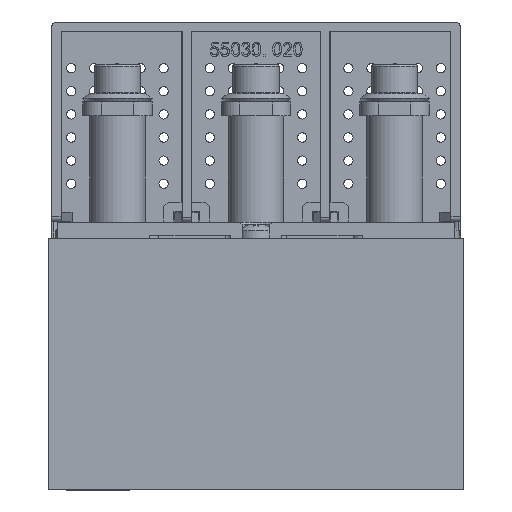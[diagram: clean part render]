
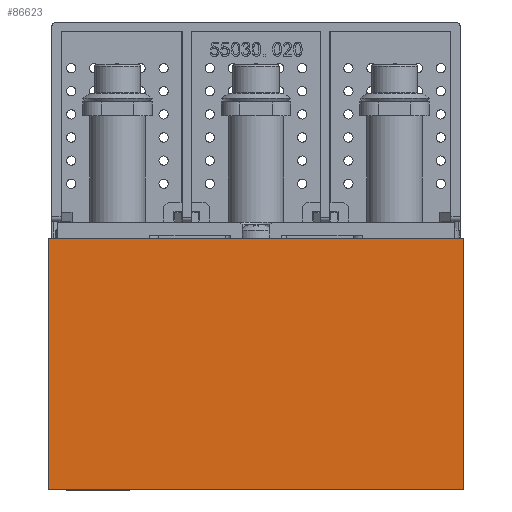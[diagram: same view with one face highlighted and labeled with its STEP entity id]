
A CAD part, left-side view. The second image highlights one B-rep face of the part: STEP entity #86623.
In plain terms, the highlighted planar face has unit normal (-1, 0, 0).
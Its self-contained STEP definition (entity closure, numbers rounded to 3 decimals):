
#1663 = DIRECTION ( 'NONE',  ( 0., 0., 1. ) ) ;
#5992 = CARTESIAN_POINT ( 'NONE',  ( -124.11, -39.537, 165.85 ) ) ;
#7339 = VERTEX_POINT ( 'NONE', #5992 ) ;
#9462 = LINE ( 'NONE', #20643, #47146 ) ;
#13139 = VECTOR ( 'NONE', #78857, 1000. ) ;
#13772 = AXIS2_PLACEMENT_3D ( 'NONE', #49940, #64772, #1663 ) ;
#18116 = DIRECTION ( 'NONE',  ( 0., -1., 0. ) ) ;
#20643 = CARTESIAN_POINT ( 'NONE',  ( -124.11, 50.463, 165.85 ) ) ;
#21402 = VECTOR ( 'NONE', #80673, 1000. ) ;
#22137 = ORIENTED_EDGE ( 'NONE', *, *, #66655, .T. ) ;
#24779 = CARTESIAN_POINT ( 'NONE',  ( -124.11, 50.463, 220.35 ) ) ;
#24963 = CARTESIAN_POINT ( 'NONE',  ( -124.11, 50.463, 165.85 ) ) ;
#25060 = FACE_OUTER_BOUND ( 'NONE', #78325, .T. ) ;
#32980 = CARTESIAN_POINT ( 'NONE',  ( -124.11, 50.463, 165.85 ) ) ;
#34955 = CARTESIAN_POINT ( 'NONE',  ( -124.11, -39.537, 220.35 ) ) ;
#36739 = VERTEX_POINT ( 'NONE', #32980 ) ;
#40419 = EDGE_CURVE ( 'NONE', #7339, #88829, #68003, .T. ) ;
#41539 = VERTEX_POINT ( 'NONE', #24779 ) ;
#44375 = PLANE ( 'NONE',  #13772 ) ;
#47146 = VECTOR ( 'NONE', #62197, 1000. ) ;
#49940 = CARTESIAN_POINT ( 'NONE',  ( -124.11, 50.463, 165.85 ) ) ;
#54904 = EDGE_CURVE ( 'NONE', #36739, #7339, #81558, .T. ) ;
#62197 = DIRECTION ( 'NONE',  ( 0., 0., -1. ) ) ;
#62772 = VECTOR ( 'NONE', #18116, 1000. ) ;
#64772 = DIRECTION ( 'NONE',  ( -1., 0., 0. ) ) ;
#66655 = EDGE_CURVE ( 'NONE', #41539, #36739, #9462, .T. ) ;
#68003 = LINE ( 'NONE', #72361, #21402 ) ;
#68284 = ORIENTED_EDGE ( 'NONE', *, *, #75463, .F. ) ;
#70745 = LINE ( 'NONE', #85650, #13139 ) ;
#72361 = CARTESIAN_POINT ( 'NONE',  ( -124.11, -39.537, 165.85 ) ) ;
#75463 = EDGE_CURVE ( 'NONE', #41539, #88829, #70745, .T. ) ;
#78325 = EDGE_LOOP ( 'NONE', ( #68284, #22137, #89738, #82675 ) ) ;
#78857 = DIRECTION ( 'NONE',  ( 0., -1., 0. ) ) ;
#80673 = DIRECTION ( 'NONE',  ( 0., 0., 1. ) ) ;
#81558 = LINE ( 'NONE', #24963, #62772 ) ;
#82675 = ORIENTED_EDGE ( 'NONE', *, *, #40419, .T. ) ;
#85650 = CARTESIAN_POINT ( 'NONE',  ( -124.11, 0., 220.35 ) ) ;
#86623 = ADVANCED_FACE ( 'NONE', ( #25060 ), #44375, .T. ) ;
#88829 = VERTEX_POINT ( 'NONE', #34955 ) ;
#89738 = ORIENTED_EDGE ( 'NONE', *, *, #54904, .T. ) ;
